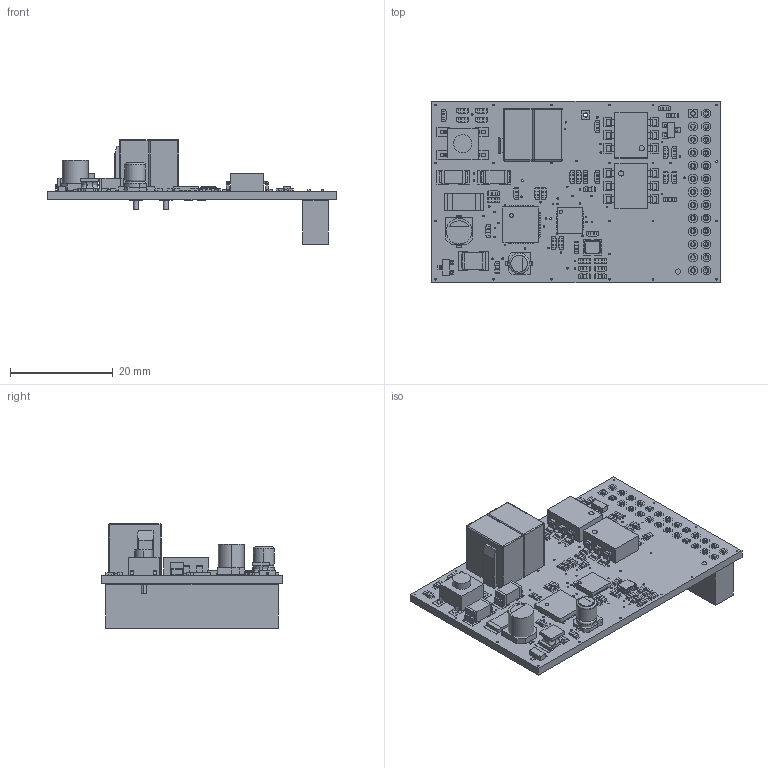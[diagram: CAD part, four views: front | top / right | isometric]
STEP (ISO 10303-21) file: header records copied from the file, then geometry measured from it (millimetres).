
FILE_DESCRIPTION (( 'STEP AP214' ), '1' );
FILE_NAME ('KNX_BAOS_kBerry_2015_12_22_001_Public3D', '', ( '' ), ( '' ), 'STEP 3.0', 'TARGET 3001!', '' );
FILE_SCHEMA (( 'AUTOMOTIVE_DESIGN' ));
Products named in the file (200): KNX_BAOS_kBerry_2015_12_22_001_Public3D; Board_assembly; Board; PadsAndTracks_assembly; PadsAndTracks_GND_assembly; PadsAndTracks_GND; PadsAndTracks_VCC-EXT_assembly; PadsAndTracks_VCC-EXT; PadsAndTracks_GND-EXT_assembly; PadsAndTracks_GND-EXT; PadsAndTracks_Sig$4_assembly; PadsAndTracks_Sig$4; PadsAndTracks_Sig$5_assembly; PadsAndTracks_Sig$5; PadsAndTracks_Sig$6_assembly; PadsAndTracks_Sig$6; PadsAndTracks_RX_EXT_assembly; PadsAndTracks_RX_EXT; PadsAndTracks_VCC_assembly; PadsAndTracks_VCC; PadsAndTracks_Sig$9_assembly; PadsAndTracks_Sig$9; PadsAndTracks_Clock_assembly; PadsAndTracks_Clock; PadsAndTracks_Sig$11_assembly; PadsAndTracks_Sig$11; PadsAndTracks_Sig$12_assembly; PadsAndTracks_Sig$12; PadsAndTracks_Sig$13_assembly; PadsAndTracks_Sig$13; PadsAndTracks_Sig$14_assembly; PadsAndTracks_Sig$14; PadsAndTracks_Sig$15_assembly; PadsAndTracks_Sig$15; PadsAndTracks_Sig$16_assembly; PadsAndTracks_Sig$16; PadsAndTracks_Sig$17_assembly; PadsAndTracks_Sig$17; PadsAndTracks_Sig$18_assembly; PadsAndTracks_Sig$18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
Assembly tree (199 placements, depth 6):
  KNX_BAOS_kBerry_2015_12_22_001_Public3D
    Board_assembly
      Board
    PadsAndTracks_assembly
      PadsAndTracks_GND_assembly
        PadsAndTracks_GND
      PadsAndTracks_VCC-EXT_assembly
        PadsAndTracks_VCC-EXT
      PadsAndTracks_GND-EXT_assembly
        PadsAndTracks_GND-EXT
      PadsAndTracks_Sig$4_assembly
        PadsAndTracks_Sig$4
      PadsAndTracks_Sig$5_assembly
        PadsAndTracks_Sig$5
      PadsAndTracks_Sig$6_assembly
        PadsAndTracks_Sig$6
      PadsAndTracks_RX_EXT_assembly
        PadsAndTracks_RX_EXT
      PadsAndTracks_VCC_assembly
        PadsAndTracks_VCC
      PadsAndTracks_Sig$9_assembly
        PadsAndTracks_Sig$9
      PadsAndTracks_Clock_assembly
        PadsAndTracks_Clock
      PadsAndTracks_Sig$11_assembly
        PadsAndTracks_Sig$11
      PadsAndTracks_Sig$12_assembly
        PadsAndTracks_Sig$12
      PadsAndTracks_Sig$13_assembly
        PadsAndTracks_Sig$13
      PadsAndTracks_Sig$14_assembly
        PadsAndTracks_Sig$14
      PadsAndTracks_Sig$15_assembly
        PadsAndTracks_Sig$15
      PadsAndTracks_Sig$16_assembly
        PadsAndTracks_Sig$16
      PadsAndTracks_Sig$17_assembly
        PadsAndTracks_Sig$17
      PadsAndTracks_Sig$18_assembly
        PadsAndTracks_Sig$18
      PadsAndTracks_RESET_assembly
        PadsAndTracks_RESET
      PadsAndTracks_Sig$20_assembly
        PadsAndTracks_Sig$20
      PadsAndTracks_Sig$21_assembly
        PadsAndTracks_Sig$21
      PadsAndTracks_Sig$22_assembly
        PadsAndTracks_Sig$22
      PadsAndTracks_Sig$23_assembly
        PadsAndTracks_Sig$23
      PadsAndTracks_Sig$24_assembly
        PadsAndTracks_Sig$24
      PadsAndTracks_ADC_assembly
        PadsAndTracks_ADC
      PadsAndTracks_OSC-OUT_assembly
        PadsAndTracks_OSC-OUT
      PadsAndTracks_OSC-IN_assembly
        PadsAndTracks_OSC-IN
      PadsAndTracks_PA18/Tx_assembly
        PadsAndTracks_PA18/Tx
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Bounding box: 56 x 35.2 x 20.31 mm (x, y, z)
Volume: 6592.1 mm3; surface area: 10120.4 mm2
Topology: 666 solids, 666 shells, 4923 faces, 10688 edges, 7099 vertices
Faces by surface type: plane 4342, cylinder 550, cone 12, sphere 8, torus 7, bspline 4
Full cylindrical faces by diameter (mm): 1.1 x2
Entity records: 123479 total; most frequent: ORIENTED_EDGE 21348, DIRECTION 15509, CARTESIAN_POINT 12927, EDGE_CURVE 10674, LINE 10096, VECTOR 9854, VERTEX_POINT 7096, EDGE_LOOP 5276
